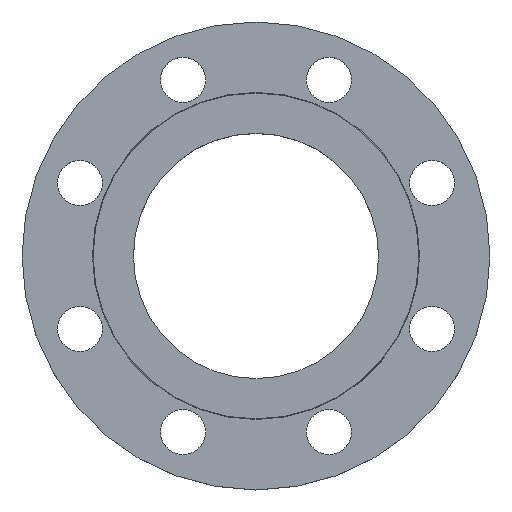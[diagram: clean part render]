
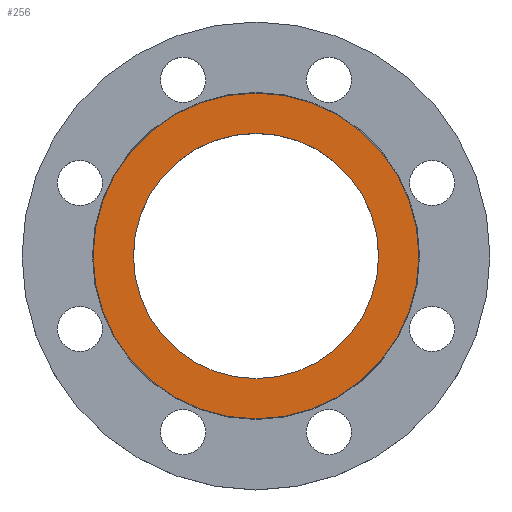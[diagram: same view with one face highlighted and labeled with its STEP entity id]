
A CAD part, top view. The second image highlights one B-rep face of the part: STEP entity #256.
In plain terms, the highlighted planar face has unit normal (0, 0, 1).
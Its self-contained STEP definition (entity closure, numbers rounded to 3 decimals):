
#16 = EDGE_LOOP ( 'NONE', ( #221, #933 ) ) ;
#32 = FACE_BOUND ( 'NONE', #682, .T. ) ;
#43 = EDGE_CURVE ( 'NONE', #696, #756, #225, .T. ) ;
#155 = DIRECTION ( 'NONE',  ( 0., 0., 1. ) ) ;
#159 = CARTESIAN_POINT ( 'NONE',  ( 0., 0., 0. ) ) ;
#164 = DIRECTION ( 'NONE',  ( 0., 0., -1. ) ) ;
#171 = ORIENTED_EDGE ( 'NONE', *, *, #861, .F. ) ;
#174 = AXIS2_PLACEMENT_3D ( 'NONE', #976, #277, #590 ) ;
#195 = DIRECTION ( 'NONE',  ( 0., 0., 1. ) ) ;
#221 = ORIENTED_EDGE ( 'NONE', *, *, #985, .F. ) ;
#225 = CIRCLE ( 'NONE', #604, 94. ) ;
#256 = ADVANCED_FACE ( 'NONE', ( #32, #353 ), #662, .T. ) ;
#277 = DIRECTION ( 'NONE',  ( 0., 0., 1. ) ) ;
#297 = AXIS2_PLACEMENT_3D ( 'NONE', #900, #195, #513 ) ;
#353 = FACE_OUTER_BOUND ( 'NONE', #16, .T. ) ;
#377 = AXIS2_PLACEMENT_3D ( 'NONE', #858, #155, #474 ) ;
#379 = VERTEX_POINT ( 'NONE', #640 ) ;
#401 = DIRECTION ( 'NONE',  ( 0., 0., -1. ) ) ;
#437 = AXIS2_PLACEMENT_3D ( 'NONE', #159, #401, #714 ) ;
#474 = DIRECTION ( 'NONE',  ( 1., 0., 0. ) ) ;
#483 = CARTESIAN_POINT ( 'NONE',  ( 94., 0., 0. ) ) ;
#484 = DIRECTION ( 'NONE',  ( -1., 0., 0. ) ) ;
#513 = DIRECTION ( 'NONE',  ( 1., 0., 0. ) ) ;
#548 = CARTESIAN_POINT ( 'NONE',  ( 70.75, 0., 0. ) ) ;
#590 = DIRECTION ( 'NONE',  ( 1., 0., 0. ) ) ;
#603 = ORIENTED_EDGE ( 'NONE', *, *, #609, .F. ) ;
#604 = AXIS2_PLACEMENT_3D ( 'NONE', #867, #164, #484 ) ;
#609 = EDGE_CURVE ( 'NONE', #857, #379, #735, .T. ) ;
#640 = CARTESIAN_POINT ( 'NONE',  ( -70.75, 0., 0. ) ) ;
#662 = PLANE ( 'NONE',  #174 ) ;
#682 = EDGE_LOOP ( 'NONE', ( #603, #171 ) ) ;
#696 = VERTEX_POINT ( 'NONE', #483 ) ;
#714 = DIRECTION ( 'NONE',  ( -1., 0., 0. ) ) ;
#735 = CIRCLE ( 'NONE', #297, 70.75 ) ;
#756 = VERTEX_POINT ( 'NONE', #956 ) ;
#818 = CIRCLE ( 'NONE', #377, 70.75 ) ;
#857 = VERTEX_POINT ( 'NONE', #548 ) ;
#858 = CARTESIAN_POINT ( 'NONE',  ( 0., 0., 0. ) ) ;
#861 = EDGE_CURVE ( 'NONE', #379, #857, #818, .T. ) ;
#867 = CARTESIAN_POINT ( 'NONE',  ( 0., 0., 0. ) ) ;
#872 = CIRCLE ( 'NONE', #437, 94. ) ;
#900 = CARTESIAN_POINT ( 'NONE',  ( 0., 0., 0. ) ) ;
#933 = ORIENTED_EDGE ( 'NONE', *, *, #43, .F. ) ;
#956 = CARTESIAN_POINT ( 'NONE',  ( -94., 0., 0. ) ) ;
#976 = CARTESIAN_POINT ( 'NONE',  ( 0., 0., 0. ) ) ;
#985 = EDGE_CURVE ( 'NONE', #756, #696, #872, .T. ) ;
